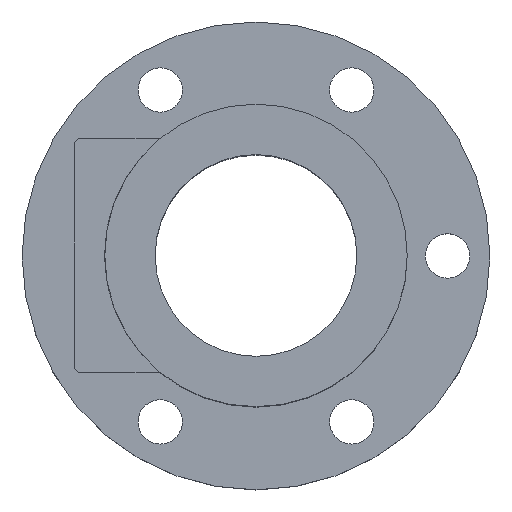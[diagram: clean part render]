
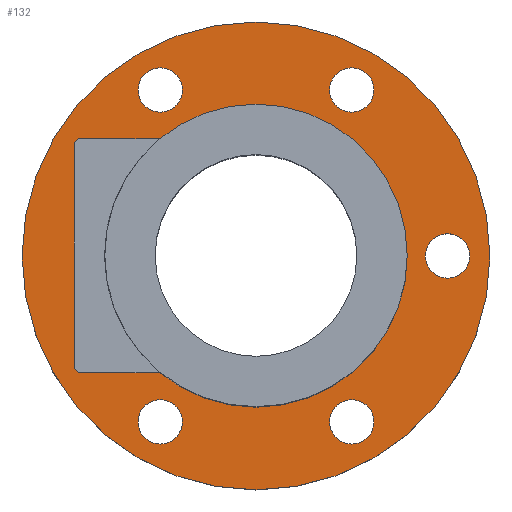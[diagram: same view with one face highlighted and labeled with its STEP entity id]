
A CAD part, top view. The second image highlights one B-rep face of the part: STEP entity #132.
In plain terms, the highlighted planar face has unit normal (0, 0, 1).
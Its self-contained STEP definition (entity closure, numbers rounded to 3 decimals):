
#97=PLANE('',#557);
#114=FACE_OUTER_BOUND('',#269,.T.);
#132=ADVANCED_FACE('',(#221,#222,#223,#114,#224,#225,#226),#97,.T.);
#221=FACE_BOUND('',#266,.T.);
#222=FACE_BOUND('',#267,.T.);
#223=FACE_BOUND('',#268,.T.);
#224=FACE_BOUND('',#270,.T.);
#225=FACE_BOUND('',#271,.T.);
#226=FACE_BOUND('',#272,.T.);
#266=EDGE_LOOP('',(#331));
#267=EDGE_LOOP('',(#332));
#268=EDGE_LOOP('',(#333));
#269=EDGE_LOOP('',(#334));
#270=EDGE_LOOP('',(#335));
#271=EDGE_LOOP('',(#336));
#272=EDGE_LOOP('',(#337));
#331=ORIENTED_EDGE('',*,*,#473,.F.);
#332=ORIENTED_EDGE('',*,*,#474,.F.);
#333=ORIENTED_EDGE('',*,*,#468,.F.);
#334=ORIENTED_EDGE('',*,*,#475,.T.);
#335=ORIENTED_EDGE('',*,*,#476,.F.);
#336=ORIENTED_EDGE('',*,*,#477,.F.);
#337=ORIENTED_EDGE('',*,*,#478,.F.);
#426=VERTEX_POINT('',#748);
#431=VERTEX_POINT('',#759);
#432=VERTEX_POINT('',#761);
#433=VERTEX_POINT('',#763);
#434=VERTEX_POINT('',#765);
#435=VERTEX_POINT('',#767);
#436=VERTEX_POINT('',#769);
#468=EDGE_CURVE('',#426,#426,#518,.T.);
#473=EDGE_CURVE('',#431,#431,#521,.T.);
#474=EDGE_CURVE('',#432,#432,#522,.T.);
#475=EDGE_CURVE('',#433,#433,#523,.T.);
#476=EDGE_CURVE('',#434,#434,#524,.T.);
#477=EDGE_CURVE('',#435,#435,#525,.T.);
#478=EDGE_CURVE('',#436,#436,#526,.T.);
#518=CIRCLE('',#547,37.5);
#521=CIRCLE('',#551,5.5);
#522=CIRCLE('',#552,5.5);
#523=CIRCLE('',#553,58.);
#524=CIRCLE('',#554,5.5);
#525=CIRCLE('',#555,5.5);
#526=CIRCLE('',#556,5.5);
#547=AXIS2_PLACEMENT_3D('',#747,#608,#609);
#551=AXIS2_PLACEMENT_3D('',#758,#618,#619);
#552=AXIS2_PLACEMENT_3D('',#760,#620,#621);
#553=AXIS2_PLACEMENT_3D('',#762,#622,#623);
#554=AXIS2_PLACEMENT_3D('',#764,#624,#625);
#555=AXIS2_PLACEMENT_3D('',#766,#626,#627);
#556=AXIS2_PLACEMENT_3D('',#768,#628,#629);
#557=AXIS2_PLACEMENT_3D('',#770,#630,#631);
#608=DIRECTION('',(0.,0.,1.));
#609=DIRECTION('',(1.,0.,0.));
#618=DIRECTION('',(0.,0.,1.));
#619=DIRECTION('',(-0.5,-0.866,0.));
#620=DIRECTION('',(0.,0.,1.));
#621=DIRECTION('',(0.5,0.866,0.));
#622=DIRECTION('',(0.,0.,1.));
#623=DIRECTION('',(1.,0.,0.));
#624=DIRECTION('',(0.,0.,1.));
#625=DIRECTION('',(1.,0.,0.));
#626=DIRECTION('',(0.,0.,1.));
#627=DIRECTION('',(-1.,0.,0.));
#628=DIRECTION('',(0.,0.,1.));
#629=DIRECTION('',(0.5,-0.866,0.));
#630=DIRECTION('',(0.,0.,1.));
#631=DIRECTION('',(1.,0.,0.));
#747=CARTESIAN_POINT('',(0.,0.,18.));
#748=CARTESIAN_POINT('',(37.5,0.,18.));
#758=CARTESIAN_POINT('',(23.75,-41.136,18.));
#759=CARTESIAN_POINT('',(21.,-45.899,18.));
#760=CARTESIAN_POINT('',(-23.75,41.136,18.));
#761=CARTESIAN_POINT('',(-21.,45.899,18.));
#762=CARTESIAN_POINT('',(0.,0.,18.));
#763=CARTESIAN_POINT('',(58.,0.,18.));
#764=CARTESIAN_POINT('',(23.75,41.136,18.));
#765=CARTESIAN_POINT('',(29.25,41.136,18.));
#766=CARTESIAN_POINT('',(-23.75,-41.136,18.));
#767=CARTESIAN_POINT('',(-29.25,-41.136,18.));
#768=CARTESIAN_POINT('',(47.5,0.,18.));
#769=CARTESIAN_POINT('',(50.25,-4.763,18.));
#770=CARTESIAN_POINT('',(0.,0.,18.));
